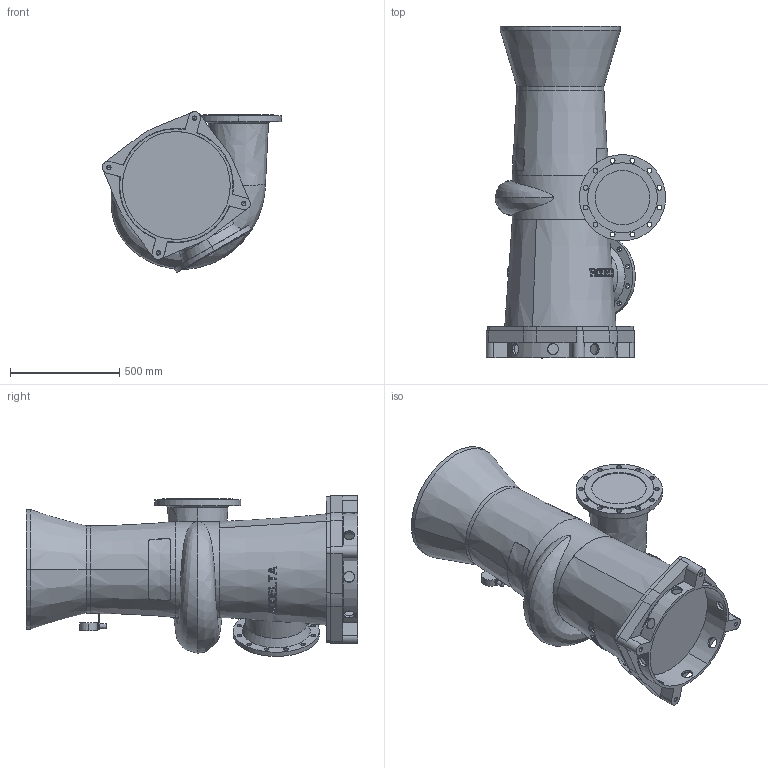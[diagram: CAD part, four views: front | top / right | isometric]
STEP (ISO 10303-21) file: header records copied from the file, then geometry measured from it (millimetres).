
FILE_DESCRIPTION((''),'2;1');
FILE_NAME('8310_VOOR_BLAD_ASM','2024-07-25T',('Lyritlocal'),(''),'PRO/ENGINEER BY PARAMETRIC TECHNOLOGY CORPORATION, 2016360','PRO/ENGINEER BY PARAMETRIC TECHNOLOGY CORPORATION, 2016360','');
FILE_SCHEMA(('CONFIG_CONTROL_DESIGN'));
Length unit declared in the file: millimetre
Products named in the file (3): 8310; 8310_VOET; 8310_VOOR_BLAD_ASM
Assembly tree (2 placements, depth 2):
  8310_VOOR_BLAD_ASM
    8310
    8310_VOET
Bounding box: 821.45 x 1521 x 737.34 mm (x, y, z)
Volume: 290401681.4 mm3; surface area: 4473475.7 mm2
Topology: 2 solids, 6 shells, 545 faces, 1466 edges, 969 vertices
Faces by surface type: plane 342, cylinder 153, cone 40, bspline 6, torus 4
Entity records: 19407 total; most frequent: CARTESIAN_POINT 6110, ORIENTED_EDGE 2900, DIRECTION 2489, EDGE_CURVE 1458, VERTEX_POINT 969, AXIS2_PLACEMENT_3D 967, EDGE_LOOP 661, VECTOR 555
